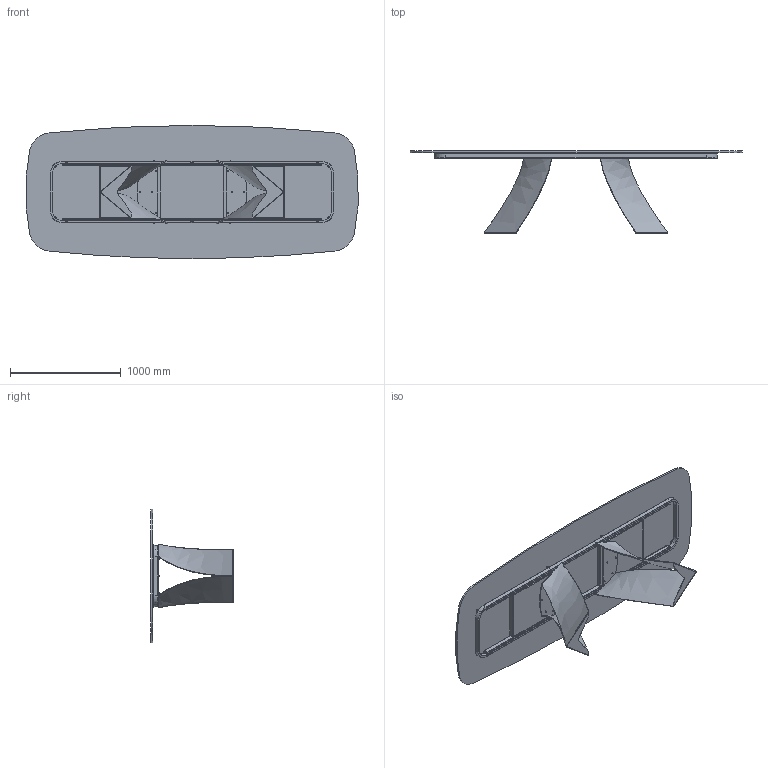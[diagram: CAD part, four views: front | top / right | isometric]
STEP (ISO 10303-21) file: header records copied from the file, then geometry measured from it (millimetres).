
FILE_DESCRIPTION (( 'STEP AP203' ), '1' );
FILE_NAME ('TW44G.STEP', '2024-08-07T12:35:37', ( '' ), ( '' ), 'SwSTEP 2.0', 'SolidWorks 2022', '' );
FILE_SCHEMA (( 'CONFIG_CONTROL_DESIGN' ));
Length unit declared in the file: millimetre
Products named in the file (10): TW44G; TTAX03_02-00-VASSOIO IRRIGIDIMENTO TELAIO TWIST 300; rondella M8_8X16; TTAV10-00-TELAIO X TAVOLO TWIST 300 320cm; 434070-00-PIEDINO TPV GOMMA NERO D. 30x8max18; TWS000000BAS-00-TWIST BASE GREZZA; M8xXXmm_M8x20mm; C4XCRXX-00-Piani Sagomati in Cristallo_3000 x 1200; TTAX03_01-00-TELAIO UNIVERSALE X TWIST 300 320cm_Default<A macchina>; PIEDINO PLASTICA PER TWIST
Assembly tree (43 placements, depth 3):
  TW44G
    C4XCRXX-00-Piani Sagomati in Cristallo_3000 x 1200
    TWS000000BAS-00-TWIST BASE GREZZA  x2
    TTAV10-00-TELAIO X TAVOLO TWIST 300 320cm
      TTAX03_01-00-TELAIO UNIVERSALE X TWIST 300 320cm_Default<A macchina>
      TTAX03_02-00-VASSOIO IRRIGIDIMENTO TELAIO TWIST 300  x2
    M8xXXmm_M8x20mm  x12
    rondella M8_8X16  x12
    434070-00-PIEDINO TPV GOMMA NERO D. 30x8max18  x8
    PIEDINO PLASTICA PER TWIST  x4
Bounding box: 2991.72 x 740.37 x 1200 mm (x, y, z)
Volume: 63931997.3 mm3; surface area: 12904692 mm2
Topology: 67 solids, 67 shells, 1271 faces, 2953 edges, 1808 vertices
Faces by surface type: plane 518, cylinder 347, torus 208, cone 132, bspline 66
Entity records: 22857 total; most frequent: CARTESIAN_POINT 8941, DIRECTION 2568, ORIENTED_EDGE 2432, EDGE_CURVE 1216, AXIS2_PLACEMENT_3D 969, VERTEX_POINT 789, LINE 630, VECTOR 630
